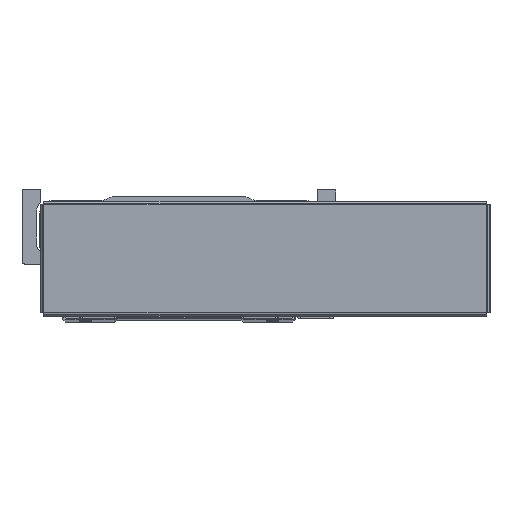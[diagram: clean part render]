
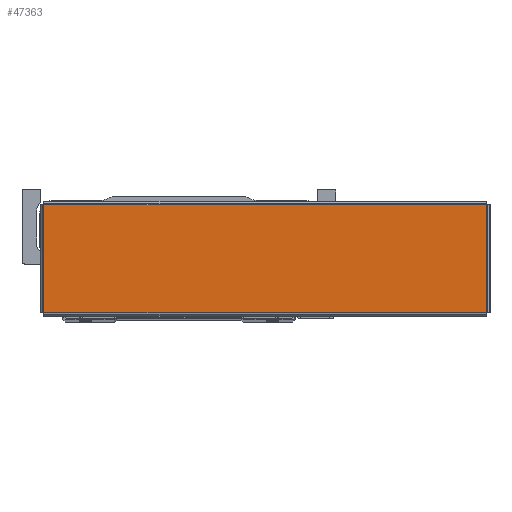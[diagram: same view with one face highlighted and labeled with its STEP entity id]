
A CAD part, top view. The second image highlights one B-rep face of the part: STEP entity #47363.
In plain terms, the highlighted planar face has unit normal (0, 0, 1) as drawn and (0, -1, 0) by its records, which use the part's own axes.
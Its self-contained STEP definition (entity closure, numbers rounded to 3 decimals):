
#1257 = CARTESIAN_POINT ( 'NONE',  ( -128.363, -1.2, 31.363 ) ) ;
#1264 = CARTESIAN_POINT ( 'NONE',  ( 128.363, -1.2, -31.363 ) ) ;
#1352 = CARTESIAN_POINT ( 'NONE',  ( -128.363, -1.2, -31.363 ) ) ;
#1367 = CARTESIAN_POINT ( 'NONE',  ( 128.363, -1.2, 31.363 ) ) ;
#2579 = VERTEX_POINT ( 'NONE', #1257 ) ;
#2580 = VERTEX_POINT ( 'NONE', #1264 ) ;
#2599 = VERTEX_POINT ( 'NONE', #1352 ) ;
#2606 = VERTEX_POINT ( 'NONE', #1367 ) ;
#12570 = EDGE_CURVE ( 'NONE', #2579, #2599, #29108, .T. ) ;
#12602 = EDGE_CURVE ( 'NONE', #2606, #2579, #29264, .T. ) ;
#12670 = EDGE_CURVE ( 'NONE', #2599, #2580, #29499, .T. ) ;
#12784 = EDGE_CURVE ( 'NONE', #2580, #2606, #29943, .T. ) ;
#19163 = CARTESIAN_POINT ( 'NONE',  ( 128.393, -1.2, 31.363 ) ) ;
#21791 = AXIS2_PLACEMENT_3D ( 'NONE', #45907, #45902, #45923 ) ;
#28049 = CARTESIAN_POINT ( 'NONE',  ( -128.393, -1.2, -31.363 ) ) ;
#28071 = DIRECTION ( 'NONE',  ( 1., 0., 0. ) ) ;
#28967 = CARTESIAN_POINT ( 'NONE',  ( 128.363, -1.2, -31.393 ) ) ;
#28994 = DIRECTION ( 'NONE',  ( 0., 0., 1. ) ) ;
#29018 = VECTOR ( 'NONE', #46938, 1000. ) ;
#29108 = LINE ( 'NONE', #46953, #29018 ) ;
#29264 = LINE ( 'NONE', #19163, #29332 ) ;
#29332 = VECTOR ( 'NONE', #46282, 1000. ) ;
#29465 = VECTOR ( 'NONE', #28071, 1000. ) ;
#29499 = LINE ( 'NONE', #28049, #29465 ) ;
#29888 = VECTOR ( 'NONE', #28994, 1000. ) ;
#29943 = LINE ( 'NONE', #28967, #29888 ) ;
#30918 = ORIENTED_EDGE ( 'NONE', *, *, #12784, .T. ) ;
#30920 = ORIENTED_EDGE ( 'NONE', *, *, #12602, .T. ) ;
#30956 = ORIENTED_EDGE ( 'NONE', *, *, #12670, .T. ) ;
#30962 = ORIENTED_EDGE ( 'NONE', *, *, #12570, .T. ) ;
#35418 = FACE_OUTER_BOUND ( 'NONE', #38222, .T. ) ;
#38222 = EDGE_LOOP ( 'NONE', ( #30920, #30962, #30956, #30918 ) ) ;
#45902 = DIRECTION ( 'NONE',  ( 0., 1., 0. ) ) ;
#45907 = CARTESIAN_POINT ( 'NONE',  ( 0., -1.2, 0. ) ) ;
#45923 = DIRECTION ( 'NONE',  ( 0., 0., 1. ) ) ;
#45930 = PLANE ( 'NONE',  #21791 ) ;
#46282 = DIRECTION ( 'NONE',  ( -1., 0., 0. ) ) ;
#46938 = DIRECTION ( 'NONE',  ( 0., 0., -1. ) ) ;
#46953 = CARTESIAN_POINT ( 'NONE',  ( -128.363, -1.2, 31.393 ) ) ;
#47363 = ADVANCED_FACE ( 'NONE', ( #35418 ), #45930, .F. ) ;
